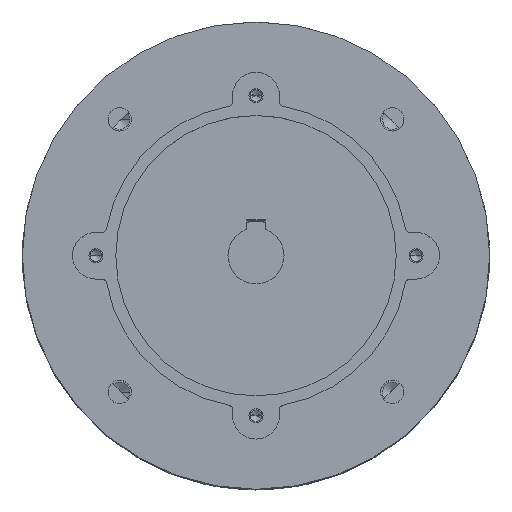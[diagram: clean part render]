
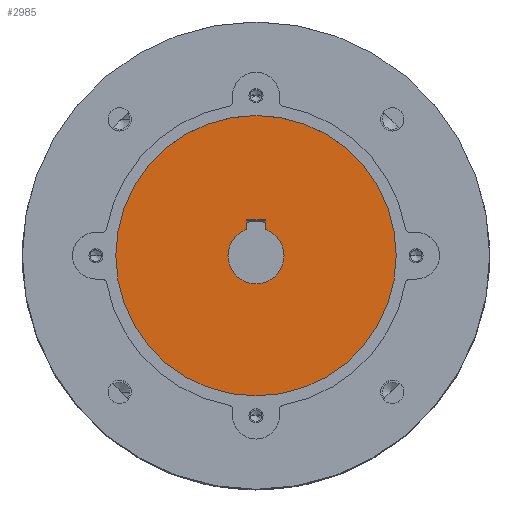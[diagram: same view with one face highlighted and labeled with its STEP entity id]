
A CAD part, top view. The second image highlights one B-rep face of the part: STEP entity #2985.
In plain terms, the highlighted planar face has unit normal (0, 0, 1).
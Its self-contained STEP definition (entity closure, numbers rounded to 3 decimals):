
#295 = EDGE_LOOP ( 'NONE', ( #12059, #12655 ) ) ;
#342 = VERTEX_POINT ( 'NONE', #1596 ) ;
#456 = CIRCLE ( 'NONE', #10172, 12. ) ;
#517 = EDGE_CURVE ( 'NONE', #8116, #10651, #581, .T. ) ;
#564 = VERTEX_POINT ( 'NONE', #7041 ) ;
#581 = LINE ( 'NONE', #8050, #8927 ) ;
#818 = AXIS2_PLACEMENT_3D ( 'NONE', #6803, #12003, #4687 ) ;
#1153 = DIRECTION ( 'NONE',  ( -1., 0., 0. ) ) ;
#1286 = ORIENTED_EDGE ( 'NONE', *, *, #12687, .F. ) ;
#1596 = CARTESIAN_POINT ( 'NONE',  ( -4., 15.3, -12. ) ) ;
#1649 = DIRECTION ( 'NONE',  ( 0., 0., 1. ) ) ;
#1662 = EDGE_CURVE ( 'NONE', #2757, #564, #5495, .T. ) ;
#1693 = VERTEX_POINT ( 'NONE', #12866 ) ;
#1814 = VECTOR ( 'NONE', #5641, 1000. ) ;
#2204 = CARTESIAN_POINT ( 'NONE',  ( -4., 15.3, -12. ) ) ;
#2219 = DIRECTION ( 'NONE',  ( 0., 0., 1. ) ) ;
#2545 = ORIENTED_EDGE ( 'NONE', *, *, #8704, .F. ) ;
#2757 = VERTEX_POINT ( 'NONE', #8048 ) ;
#2854 = AXIS2_PLACEMENT_3D ( 'NONE', #9899, #3629, #10946 ) ;
#2985 = ADVANCED_FACE ( 'NONE', ( #5985, #3187 ), #9950, .F. ) ;
#3187 = FACE_BOUND ( 'NONE', #10900, .T. ) ;
#3629 = DIRECTION ( 'NONE',  ( 0., 0., -1. ) ) ;
#3688 = ORIENTED_EDGE ( 'NONE', *, *, #517, .F. ) ;
#3812 = CARTESIAN_POINT ( 'NONE',  ( 0., 0., -12. ) ) ;
#4279 = AXIS2_PLACEMENT_3D ( 'NONE', #7926, #1649, #8967 ) ;
#4687 = DIRECTION ( 'NONE',  ( -1., 0., 0. ) ) ;
#4871 = DIRECTION ( 'NONE',  ( 1., 0., 0. ) ) ;
#4878 = CARTESIAN_POINT ( 'NONE',  ( -4., 11.314, -12. ) ) ;
#5043 = CIRCLE ( 'NONE', #9291, 12. ) ;
#5495 = CIRCLE ( 'NONE', #6069, 60. ) ;
#5617 = CIRCLE ( 'NONE', #2854, 60. ) ;
#5641 = DIRECTION ( 'NONE',  ( 0., -1., 0. ) ) ;
#5866 = DIRECTION ( 'NONE',  ( 0., 0., -1. ) ) ;
#5985 = FACE_OUTER_BOUND ( 'NONE', #295, .T. ) ;
#6069 = AXIS2_PLACEMENT_3D ( 'NONE', #13176, #5866, #12116 ) ;
#6205 = LINE ( 'NONE', #2204, #8664 ) ;
#6579 = EDGE_CURVE ( 'NONE', #564, #2757, #5617, .T. ) ;
#6687 = CARTESIAN_POINT ( 'NONE',  ( -4., 15.3, -12. ) ) ;
#6803 = CARTESIAN_POINT ( 'NONE',  ( 60., 0., -12. ) ) ;
#7041 = CARTESIAN_POINT ( 'NONE',  ( -60., 0., -12. ) ) ;
#7166 = ORIENTED_EDGE ( 'NONE', *, *, #12217, .F. ) ;
#7266 = CARTESIAN_POINT ( 'NONE',  ( 12., 0., -12. ) ) ;
#7418 = LINE ( 'NONE', #6687, #1814 ) ;
#7926 = CARTESIAN_POINT ( 'NONE',  ( 0., 0., -12. ) ) ;
#8048 = CARTESIAN_POINT ( 'NONE',  ( 60., 0., -12. ) ) ;
#8050 = CARTESIAN_POINT ( 'NONE',  ( 4., 15.3, -12. ) ) ;
#8116 = VERTEX_POINT ( 'NONE', #13202 ) ;
#8237 = EDGE_CURVE ( 'NONE', #12919, #8116, #11450, .T. ) ;
#8411 = ORIENTED_EDGE ( 'NONE', *, *, #8237, .F. ) ;
#8495 = CARTESIAN_POINT ( 'NONE',  ( 0., 0., -12. ) ) ;
#8583 = CARTESIAN_POINT ( 'NONE',  ( 4., 15.3, -12. ) ) ;
#8664 = VECTOR ( 'NONE', #1153, 1000. ) ;
#8704 = EDGE_CURVE ( 'NONE', #342, #11081, #7418, .T. ) ;
#8927 = VECTOR ( 'NONE', #9083, 1000. ) ;
#8967 = DIRECTION ( 'NONE',  ( 1., 0., 0. ) ) ;
#9083 = DIRECTION ( 'NONE',  ( 0., 1., 0. ) ) ;
#9291 = AXIS2_PLACEMENT_3D ( 'NONE', #8495, #2219, #9537 ) ;
#9537 = DIRECTION ( 'NONE',  ( 1., 0., 0. ) ) ;
#9899 = CARTESIAN_POINT ( 'NONE',  ( 0., 0., -12. ) ) ;
#9950 = PLANE ( 'NONE',  #818 ) ;
#10172 = AXIS2_PLACEMENT_3D ( 'NONE', #3812, #11133, #4871 ) ;
#10651 = VERTEX_POINT ( 'NONE', #8583 ) ;
#10900 = EDGE_LOOP ( 'NONE', ( #2545, #7166, #3688, #8411, #1286, #11242 ) ) ;
#10946 = DIRECTION ( 'NONE',  ( -1., 0., 0. ) ) ;
#11081 = VERTEX_POINT ( 'NONE', #4878 ) ;
#11133 = DIRECTION ( 'NONE',  ( 0., 0., 1. ) ) ;
#11242 = ORIENTED_EDGE ( 'NONE', *, *, #11970, .F. ) ;
#11450 = CIRCLE ( 'NONE', #4279, 12. ) ;
#11970 = EDGE_CURVE ( 'NONE', #11081, #1693, #5043, .T. ) ;
#12003 = DIRECTION ( 'NONE',  ( 0., 0., -1. ) ) ;
#12059 = ORIENTED_EDGE ( 'NONE', *, *, #6579, .F. ) ;
#12116 = DIRECTION ( 'NONE',  ( -1., 0., 0. ) ) ;
#12217 = EDGE_CURVE ( 'NONE', #10651, #342, #6205, .T. ) ;
#12655 = ORIENTED_EDGE ( 'NONE', *, *, #1662, .F. ) ;
#12687 = EDGE_CURVE ( 'NONE', #1693, #12919, #456, .T. ) ;
#12866 = CARTESIAN_POINT ( 'NONE',  ( -12., 0., -12. ) ) ;
#12919 = VERTEX_POINT ( 'NONE', #7266 ) ;
#13176 = CARTESIAN_POINT ( 'NONE',  ( 0., 0., -12. ) ) ;
#13202 = CARTESIAN_POINT ( 'NONE',  ( 4., 11.314, -12. ) ) ;
